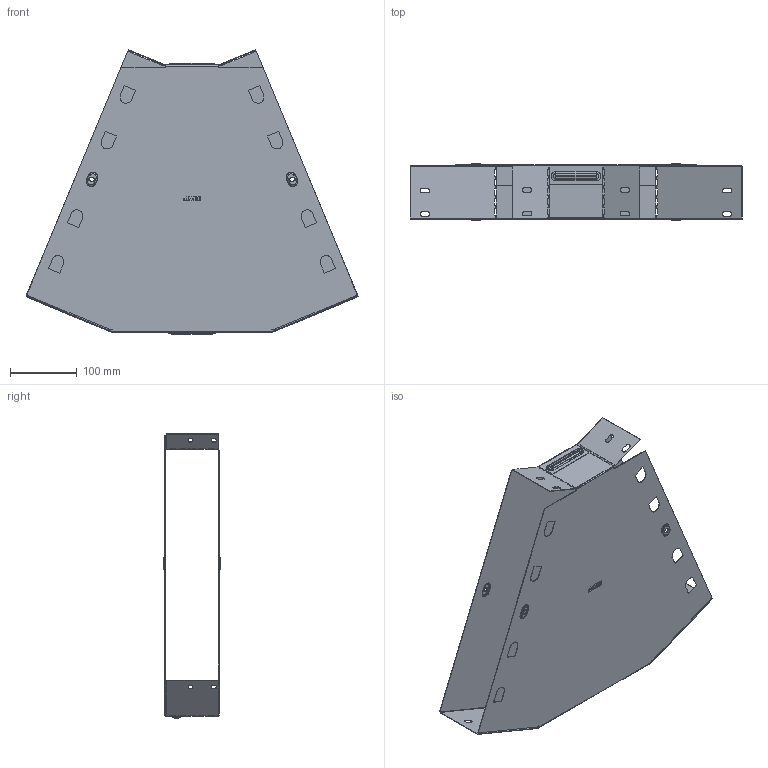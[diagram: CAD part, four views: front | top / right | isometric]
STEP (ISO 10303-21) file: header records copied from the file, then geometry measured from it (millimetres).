
FILE_DESCRIPTION (( 'STEP AP214' ), '1' );
FILE_NAME ('g4580400_捘.STEP', '2019-06-10T08:47:54', ( '砐錪賧瘔蠈錪 Windows' ), ( '' ), 'SwSTEP 2.0', 'SolidWorks 2018', '' );
FILE_SCHEMA (( 'AUTOMOTIVE_DESIGN' ));
Length unit declared in the file: millimetre
Products named in the file (1): g4580400_捘
Bounding box: 496.49 x 83.8 x 425.57 mm (x, y, z)
Volume: 275785 mm3; surface area: 694063.4 mm2
Topology: 2 solids, 2 shells, 596 faces, 1656 edges, 1052 vertices
Faces by surface type: plane 338, cylinder 176, torus 64, bspline 18
Entity records: 19996 total; most frequent: CARTESIAN_POINT 4324, ORIENTED_EDGE 3312, DIRECTION 3226, EDGE_CURVE 1656, VECTOR 1172, LINE 1172, VERTEX_POINT 1052, AXIS2_PLACEMENT_3D 1027
